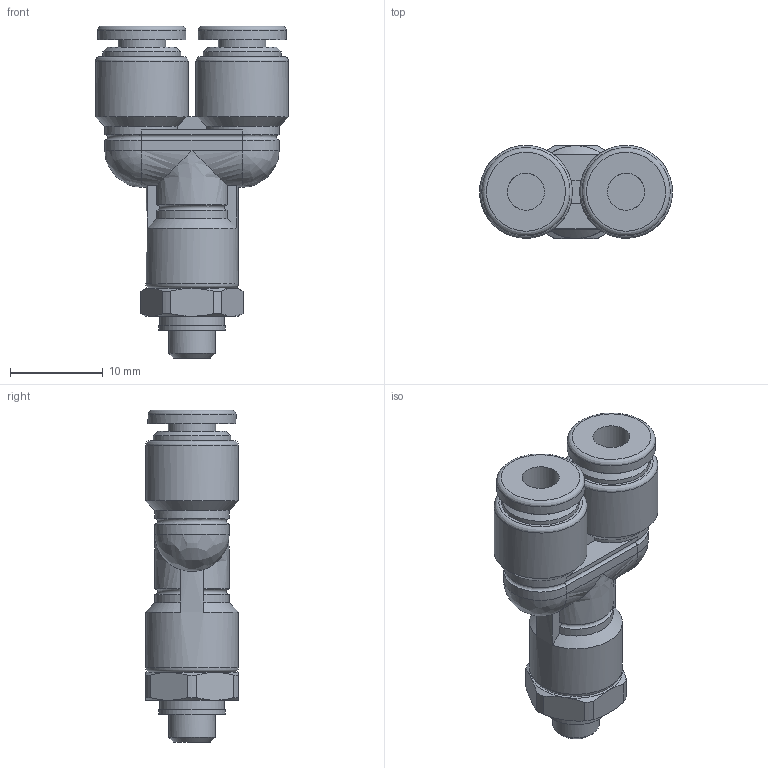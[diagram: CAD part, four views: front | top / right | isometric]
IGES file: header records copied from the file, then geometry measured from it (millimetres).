
Global section: file name: [01] FS4-M5MY FS4-M5MYW; native system: Autodesk Inventor 2014; preprocessor: unknown; author: kazuhiro.t; date: 20130806.165849; units: millimetre
Bounding box: 20.8 x 10 x 35.8 mm (x, y, z)
Volume: 3103.8 mm3; surface area: 2286.8 mm2
Topology: 1 solids, 1 shells, 96 faces, 218 edges, 132 vertices
Faces by surface type: bspline 96
